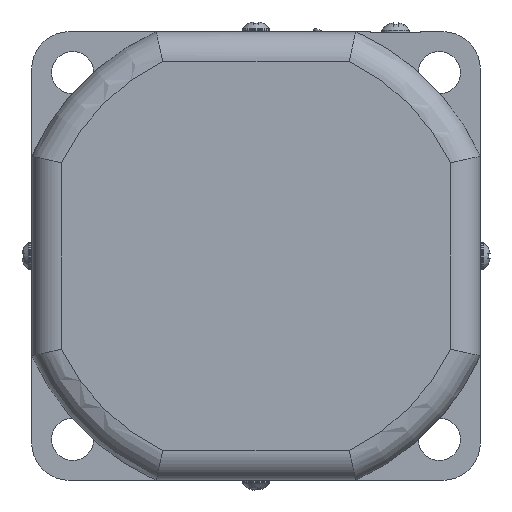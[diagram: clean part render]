
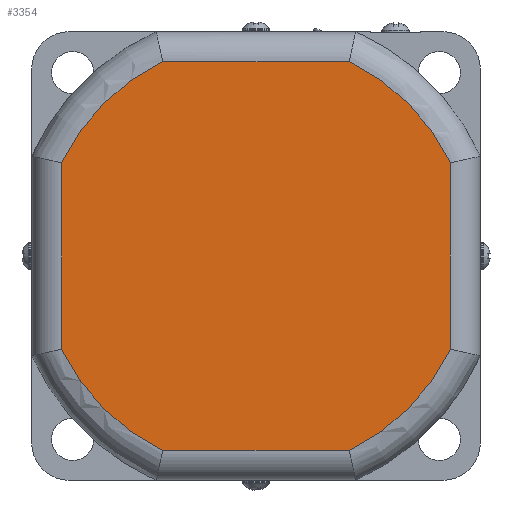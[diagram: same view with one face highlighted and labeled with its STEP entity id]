
A CAD part, left-side view. The second image highlights one B-rep face of the part: STEP entity #3354.
In plain terms, the highlighted planar face has unit normal (-1, 0, 0).
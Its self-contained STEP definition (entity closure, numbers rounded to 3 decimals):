
#345=FACE_OUTER_BOUND('',#569,.T.);
#569=EDGE_LOOP('',(#2555,#2556,#2557,#2558,#2559,#2560,#2561,#2562));
#756=CIRCLE('',#3603,43.25);
#757=CIRCLE('',#3607,43.25);
#760=CIRCLE('',#3611,43.25);
#761=CIRCLE('',#3615,43.25);
#961=LINE('',#5472,#1199);
#964=LINE('',#5492,#1202);
#965=LINE('',#5545,#1203);
#966=LINE('',#5562,#1204);
#1199=VECTOR('',#4211,37.393);
#1202=VECTOR('',#4216,37.393);
#1203=VECTOR('',#4231,37.393);
#1204=VECTOR('',#4234,37.393);
#1469=VERTEX_POINT('',#5422);
#1471=VERTEX_POINT('',#5439);
#1473=VERTEX_POINT('',#5457);
#1475=VERTEX_POINT('',#5476);
#1476=VERTEX_POINT('',#5494);
#1477=VERTEX_POINT('',#5512);
#1478=VERTEX_POINT('',#5530);
#1479=VERTEX_POINT('',#5547);
#1855=EDGE_CURVE('',#1471,#1469,#756,.T.);
#1857=EDGE_CURVE('',#1473,#1471,#961,.T.);
#1861=EDGE_CURVE('',#1469,#1475,#964,.T.);
#1863=EDGE_CURVE('',#1476,#1473,#757,.T.);
#1867=EDGE_CURVE('',#1475,#1477,#760,.T.);
#1869=EDGE_CURVE('',#1478,#1476,#965,.T.);
#1871=EDGE_CURVE('',#1477,#1479,#966,.T.);
#1872=EDGE_CURVE('',#1479,#1478,#761,.T.);
#2555=ORIENTED_EDGE('',*,*,#1871,.F.);
#2556=ORIENTED_EDGE('',*,*,#1867,.F.);
#2557=ORIENTED_EDGE('',*,*,#1861,.F.);
#2558=ORIENTED_EDGE('',*,*,#1855,.F.);
#2559=ORIENTED_EDGE('',*,*,#1857,.F.);
#2560=ORIENTED_EDGE('',*,*,#1863,.F.);
#2561=ORIENTED_EDGE('',*,*,#1869,.F.);
#2562=ORIENTED_EDGE('',*,*,#1872,.F.);
#3003=PLANE('',#3617);
#3354=ADVANCED_FACE('',(#345),#3003,.F.);
#3603=AXIS2_PLACEMENT_3D('',#5454,#4207,#4208);
#3607=AXIS2_PLACEMENT_3D('',#5509,#4219,#4220);
#3611=AXIS2_PLACEMENT_3D('',#5528,#4227,#4228);
#3615=AXIS2_PLACEMENT_3D('',#5564,#4237,#4238);
#3617=AXIS2_PLACEMENT_3D('',#5566,#4241,#4242);
#4207=DIRECTION('center_axis',(1.,0.,0.));
#4208=DIRECTION('ref_axis',(0.,0.707,-0.707));
#4211=DIRECTION('',(0.,1.,0.));
#4216=DIRECTION('',(0.,0.,1.));
#4219=DIRECTION('center_axis',(1.,0.,0.));
#4220=DIRECTION('ref_axis',(0.,-0.707,-0.707));
#4227=DIRECTION('center_axis',(1.,0.,0.));
#4228=DIRECTION('ref_axis',(0.,0.707,0.707));
#4231=DIRECTION('',(0.,0.,-1.));
#4234=DIRECTION('',(0.,-1.,0.));
#4237=DIRECTION('center_axis',(1.,0.,0.));
#4238=DIRECTION('ref_axis',(0.,-0.707,0.707));
#4241=DIRECTION('center_axis',(1.,0.,0.));
#4242=DIRECTION('ref_axis',(0.,1.,0.));
#5422=CARTESIAN_POINT('',(-17.8,39.,-18.697));
#5439=CARTESIAN_POINT('',(-17.8,18.697,-39.));
#5454=CARTESIAN_POINT('Origin',(-17.8,0.,
0.));
#5457=CARTESIAN_POINT('',(-17.8,-18.697,-39.));
#5472=CARTESIAN_POINT('',(-17.8,-18.697,-39.));
#5476=CARTESIAN_POINT('',(-17.8,39.,18.697));
#5492=CARTESIAN_POINT('',(-17.8,39.,-18.697));
#5494=CARTESIAN_POINT('',(-17.8,-39.,-18.697));
#5509=CARTESIAN_POINT('Origin',(-17.8,0.,
0.));
#5512=CARTESIAN_POINT('',(-17.8,18.697,39.));
#5528=CARTESIAN_POINT('Origin',(-17.8,0.,
0.));
#5530=CARTESIAN_POINT('',(-17.8,-39.,18.697));
#5545=CARTESIAN_POINT('',(-17.8,-39.,18.697));
#5547=CARTESIAN_POINT('',(-17.8,-18.697,39.));
#5562=CARTESIAN_POINT('',(-17.8,18.697,39.));
#5564=CARTESIAN_POINT('Origin',(-17.8,0.,
0.));
#5566=CARTESIAN_POINT('Origin',(-17.8,0.,
0.));
